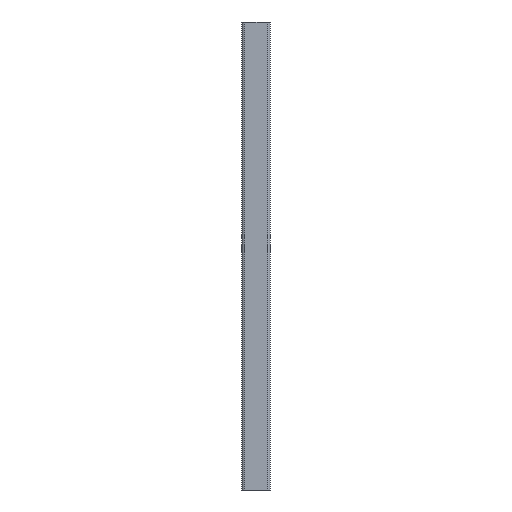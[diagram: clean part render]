
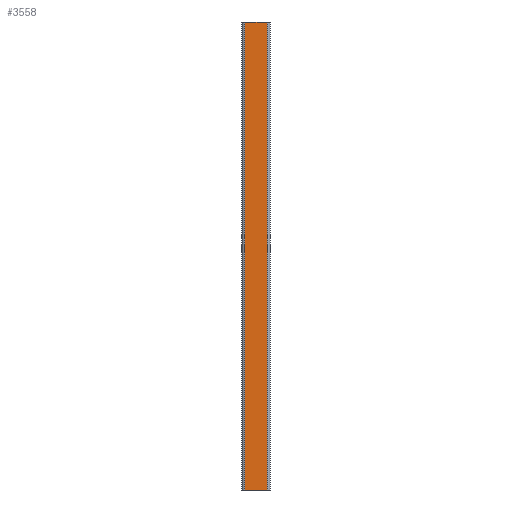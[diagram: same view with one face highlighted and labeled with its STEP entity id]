
A CAD part, left-side view. The second image highlights one B-rep face of the part: STEP entity #3558.
In plain terms, the highlighted planar face has unit normal (-1, 0, 0).
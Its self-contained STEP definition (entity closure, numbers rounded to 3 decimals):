
#812 = CARTESIAN_POINT ( 'NONE',  ( 395.541, 540.71, -500. ) ) ;
#823 = LINE ( 'NONE', #832, #831 ) ;
#830 = DIRECTION ( 'NONE',  ( 0., 0., 1. ) ) ;
#831 = VECTOR ( 'NONE', #830, 1000. ) ;
#832 = CARTESIAN_POINT ( 'NONE',  ( 395.541, 564.71, -500. ) ) ;
#2553 = DIRECTION ( 'NONE',  ( 0., 0., 1. ) ) ;
#2554 = VECTOR ( 'NONE', #2553, 1000. ) ;
#2555 = CARTESIAN_POINT ( 'NONE',  ( 395.541, 540.71, -500. ) ) ;
#2575 = FACE_OUTER_BOUND ( 'NONE', #3490, .T. ) ;
#2581 = AXIS2_PLACEMENT_3D ( 'NONE', #2658, #2657, #2656 ) ;
#2629 = PLANE ( 'NONE',  #2581 ) ;
#2639 = CARTESIAN_POINT ( 'NONE',  ( 395.541, 540.71, 0. ) ) ;
#2650 = LINE ( 'NONE', #2555, #2554 ) ;
#2656 = DIRECTION ( 'NONE',  ( 0., -1., 0. ) ) ;
#2657 = DIRECTION ( 'NONE',  ( -1., 0., 0. ) ) ;
#2658 = CARTESIAN_POINT ( 'NONE',  ( 395.541, 564.71, -500. ) ) ;
#2957 = LINE ( 'NONE', #3099, #3098 ) ;
#3017 = CARTESIAN_POINT ( 'NONE',  ( 395.541, 564.71, 0. ) ) ;
#3019 = CARTESIAN_POINT ( 'NONE',  ( 395.541, 564.71, -500. ) ) ;
#3022 = DIRECTION ( 'NONE',  ( 0., -1., 0. ) ) ;
#3023 = VECTOR ( 'NONE', #3022, 1000. ) ;
#3024 = CARTESIAN_POINT ( 'NONE',  ( 395.541, 564.71, -500. ) ) ;
#3025 = LINE ( 'NONE', #3024, #3023 ) ;
#3097 = DIRECTION ( 'NONE',  ( 0., -1., 0. ) ) ;
#3098 = VECTOR ( 'NONE', #3097, 1000. ) ;
#3099 = CARTESIAN_POINT ( 'NONE',  ( 395.541, 564.71, 0. ) ) ;
#3490 = EDGE_LOOP ( 'NONE', ( #3648, #3746, #3745, #3743 ) ) ;
#3558 = ADVANCED_FACE ( 'NONE', ( #2575 ), #2629, .T. ) ;
#3609 = EDGE_CURVE ( 'NONE', #3806, #3612, #2650, .T. ) ;
#3612 = VERTEX_POINT ( 'NONE', #2639 ) ;
#3622 = EDGE_CURVE ( 'NONE', #3624, #3806, #3025, .T. ) ;
#3624 = VERTEX_POINT ( 'NONE', #3019 ) ;
#3630 = VERTEX_POINT ( 'NONE', #3017 ) ;
#3648 = ORIENTED_EDGE ( 'NONE', *, *, #3654, .F. ) ;
#3654 = EDGE_CURVE ( 'NONE', #3630, #3612, #2957, .T. ) ;
#3743 = ORIENTED_EDGE ( 'NONE', *, *, #3609, .T. ) ;
#3745 = ORIENTED_EDGE ( 'NONE', *, *, #3622, .T. ) ;
#3746 = ORIENTED_EDGE ( 'NONE', *, *, #3749, .F. ) ;
#3749 = EDGE_CURVE ( 'NONE', #3624, #3630, #823, .T. ) ;
#3806 = VERTEX_POINT ( 'NONE', #812 ) ;
